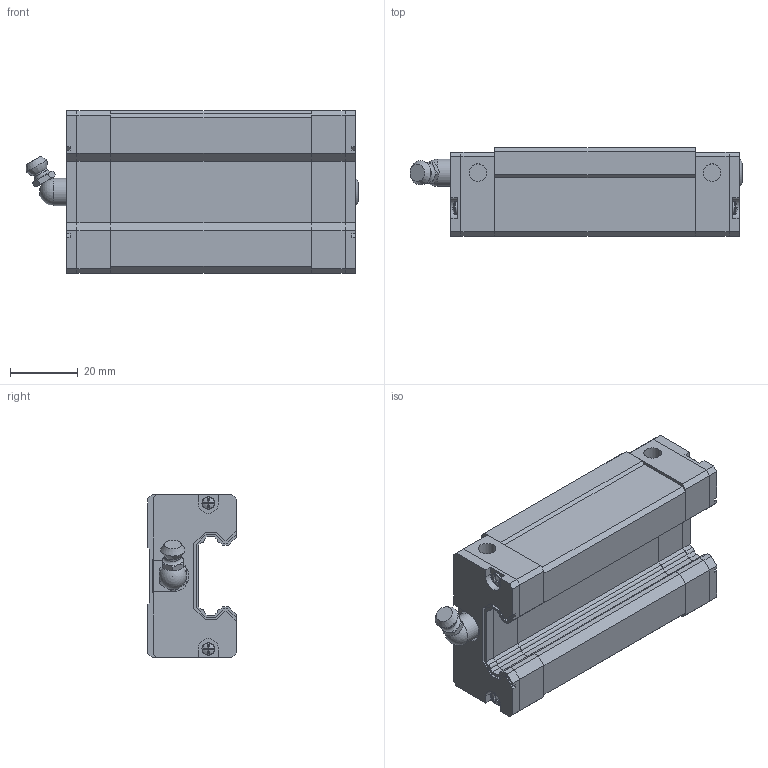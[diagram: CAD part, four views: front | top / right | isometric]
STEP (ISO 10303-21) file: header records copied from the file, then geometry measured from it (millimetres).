
FILE_DESCRIPTION(('FreeCAD Model'),'2;1');
FILE_NAME('Open CASCADE Shape Model','2024-12-05T11:31:52',('Author'),( ''),'Open CASCADE STEP processor 7.6','FreeCAD','Unknown');
FILE_SCHEMA(('AUTOMOTIVE_DESIGN { 1 0 10303 214 1 1 1 1 }'));
Length unit declared in the file: millimetre
Products named in the file (12): EH25CA; _GEH25CA_slider001; _GEC25_C002; _GEC25_P002; _GH25_SCREW004; _GH25_SCREW005; _GH25_BOLT001; _GEC25_C003; _GEC25_P003; _GH25_SCREW006; _GH25_SCREW007; _GH25-_G001
Assembly tree (11 placements, depth 2):
  EH25CA
    _GEH25CA_slider001
    _GEC25_C002
    _GEC25_P002
    _GH25_SCREW004
    _GH25_SCREW005
    _GH25_BOLT001
    _GEC25_C003
    _GEC25_P003
    _GH25_SCREW006
    _GH25_SCREW007
    _GH25-_G001
Bounding box: 97.8 x 26.1 x 48 mm (x, y, z)
Volume: 82310.3 mm3; surface area: 26393.2 mm2
Topology: 11 solids, 11 shells, 385 faces, 1016 edges, 667 vertices
Faces by surface type: plane 302, cylinder 51, cone 20, torus 6, sphere 5, bspline 1
Full cylindrical faces by diameter (mm): 2.2 x4, 3.725 x4, 4.5 x1, 4.917 x4, 5.2 x4, 6 x2, 6.5 x2, 7.4 x2, 8 x1, 8.2 x1
Entity records: 12179 total; most frequent: CARTESIAN_POINT 2316, ORIENTED_EDGE 2030, DIRECTION 1914, EDGE_CURVE 1015, LINE 758, VECTOR 758, VERTEX_POINT 667, AXIS2_PLACEMENT_3D 578
